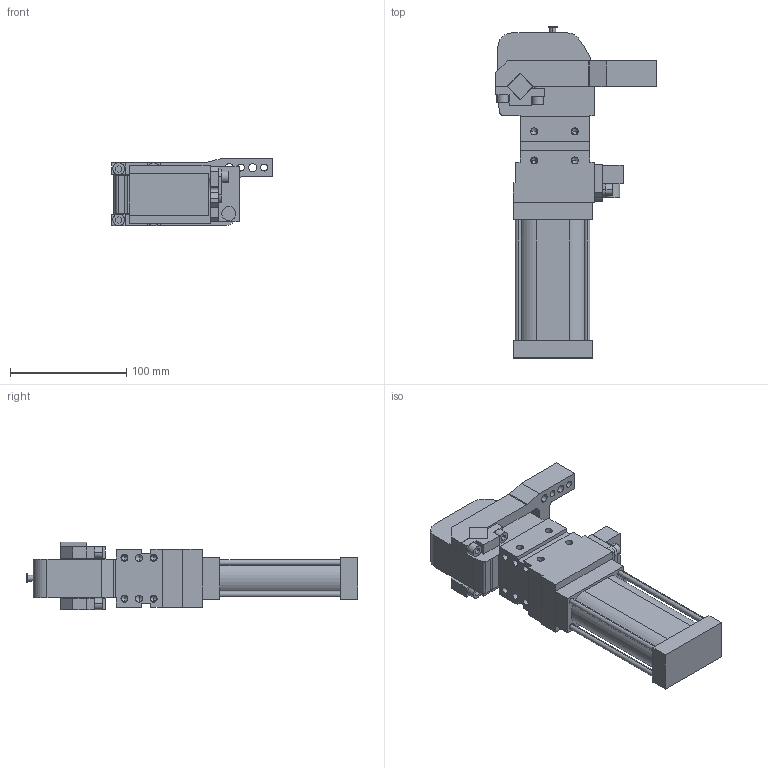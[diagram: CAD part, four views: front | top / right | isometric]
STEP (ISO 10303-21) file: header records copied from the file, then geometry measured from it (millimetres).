
FILE_DESCRIPTION (( 'STEP AP214' ), '1' );
FILE_NAME ('cpl40v2ssi1g_19.STEP', '2021-05-25T10:35:48', ( '' ), ( '' ), 'SwSTEP 2.0', 'SolidWorks 2021', '' );
FILE_SCHEMA (( 'AUTOMOTIVE_DESIGN' ));
Length unit declared in the file: millimetre
Products named in the file (5): blocchetto_VEP_0_cpl40; cpl40v2ssi1g_19; meccanica_cpl40; piastra_blocchetto_cpl40; leva_v2d_cpl40
Assembly tree (4 placements, depth 2):
  cpl40v2ssi1g_19
    meccanica_cpl40
    blocchetto_VEP_0_cpl40
    piastra_blocchetto_cpl40
    leva_v2d_cpl40
Bounding box: 138 x 285 x 58 mm (x, y, z)
Volume: 766650.2 mm3; surface area: 116512.3 mm2
Topology: 5 solids, 5 shells, 431 faces, 1097 edges, 687 vertices
Faces by surface type: plane 242, cylinder 141, cone 48
Entity records: 14240 total; most frequent: DIRECTION 2239, CARTESIAN_POINT 2176, ORIENTED_EDGE 2102, EDGE_CURVE 1051, AXIS2_PLACEMENT_3D 750, LINE 739, VECTOR 739, VERTEX_POINT 687
